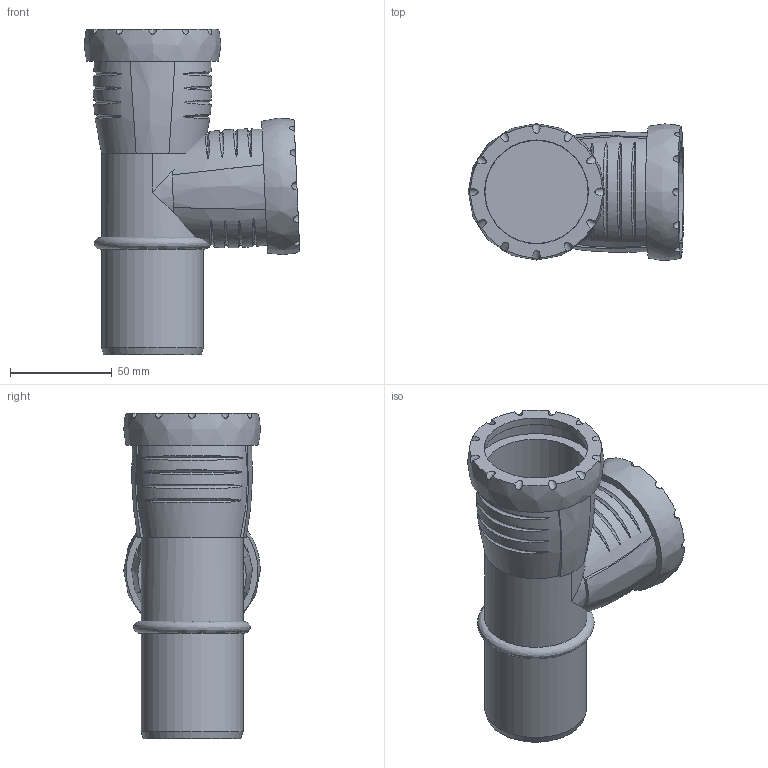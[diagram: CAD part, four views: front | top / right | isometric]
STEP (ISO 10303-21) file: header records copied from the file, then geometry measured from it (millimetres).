
FILE_DESCRIPTION(/* description */ (''),/* implementation_level */ '2;1');
FILE_NAME(/* name */ 'H:\Geberit-Teile\Export\Abzweig PP\stp\393248.stp',/* time_stamp */ '2017-02-13T13:15:59+01:00',/* author */ ('seihe2'),/* organization */ (''),/* preprocessor_version */ 'ST-DEVELOPER v15.2',/* originating_system */ 'Autodesk Inventor 2014',/* authorisation */ '');
FILE_SCHEMA (('AUTOMOTIVE_DESIGN { 1 0 10303 214 3 1 1 }'));
Length unit declared in the file: millimetre
Products named in the file (1): 393248
Bounding box: 105.93 x 67.08 x 160.1 mm (x, y, z)
Volume: 258423.1 mm3; surface area: 88456 mm2
Topology: 5 solids, 5 shells, 109 faces, 253 edges, 178 vertices
Faces by surface type: bspline 47, cylinder 42, plane 19, cone 1
Full cylindrical faces by diameter (mm): 36.243 x1, 42.65 x1, 44.15 x1, 50.15 x3, 50.7 x2, 51 x2, 60.1 x2
Entity records: 7694 total; most frequent: CARTESIAN_POINT 5430, ORIENTED_EDGE 474, DIRECTION 347, EDGE_CURVE 236, VERTEX_POINT 175, AXIS2_PLACEMENT_3D 173, EDGE_LOOP 149, B_SPLINE_CURVE_WITH_KNOTS 122
